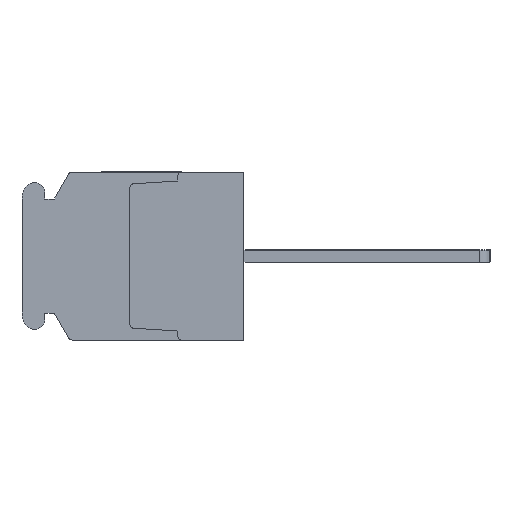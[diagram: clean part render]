
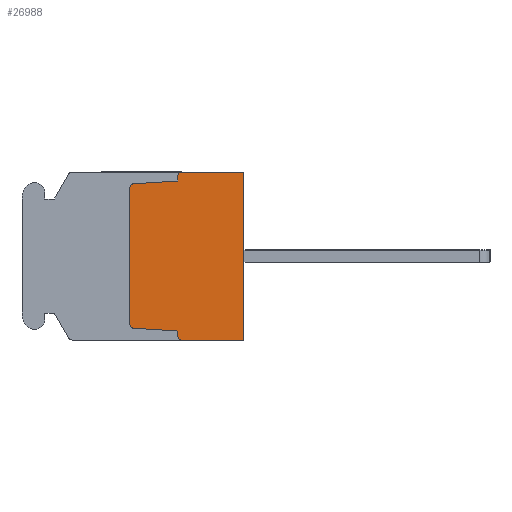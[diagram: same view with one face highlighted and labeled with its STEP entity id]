
A CAD part, left-side view. The second image highlights one B-rep face of the part: STEP entity #26988.
In plain terms, the highlighted planar face has unit normal (-1, 0, 0).
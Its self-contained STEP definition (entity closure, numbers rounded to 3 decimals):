
#2968=VECTOR('',#34209,1.);
#2969=VECTOR('',#34212,1.);
#2970=VECTOR('',#34213,1.);
#2971=VECTOR('',#34216,1.);
#2972=VECTOR('',#34217,1.);
#2973=VECTOR('',#34218,1.);
#2974=VECTOR('',#34221,1.);
#2975=VECTOR('',#34222,1.);
#5865=LINE('',#42365,#2968);
#5866=LINE('',#42369,#2969);
#5867=LINE('',#42371,#2970);
#5868=LINE('',#42375,#2971);
#5869=LINE('',#42377,#2972);
#5870=LINE('',#42379,#2973);
#5871=LINE('',#42383,#2974);
#5872=LINE('',#42385,#2975);
#7163=PLANE('',#28964);
#7884=CIRCLE('',#28965,0.3);
#7885=CIRCLE('',#28966,0.3);
#7886=CIRCLE('',#28967,0.3);
#7887=CIRCLE('',#28968,0.3);
#10159=VERTEX_POINT('',#42363);
#10160=VERTEX_POINT('',#42364);
#10161=VERTEX_POINT('',#42366);
#10162=VERTEX_POINT('',#42368);
#10163=VERTEX_POINT('',#42370);
#10164=VERTEX_POINT('',#42372);
#10165=VERTEX_POINT('',#42374);
#10166=VERTEX_POINT('',#42376);
#10167=VERTEX_POINT('',#42378);
#10168=VERTEX_POINT('',#42380);
#10169=VERTEX_POINT('',#42382);
#10170=VERTEX_POINT('',#42384);
#14042=EDGE_CURVE('',#10159,#10160,#7884,.T.);
#14043=EDGE_CURVE('',#10161,#10159,#5865,.T.);
#14044=EDGE_CURVE('',#10162,#10161,#7885,.T.);
#14045=EDGE_CURVE('',#10163,#10162,#5866,.T.);
#14046=EDGE_CURVE('',#10164,#10163,#5867,.T.);
#14047=EDGE_CURVE('',#10165,#10164,#7886,.T.);
#14048=EDGE_CURVE('',#10166,#10165,#5868,.T.);
#14049=EDGE_CURVE('',#10167,#10166,#5869,.T.);
#14050=EDGE_CURVE('',#10168,#10167,#5870,.T.);
#14051=EDGE_CURVE('',#10169,#10168,#7887,.T.);
#14052=EDGE_CURVE('',#10170,#10169,#5871,.T.);
#14053=EDGE_CURVE('',#10160,#10170,#5872,.T.);
#21221=ORIENTED_EDGE('',*,*,#14042,.F.);
#21222=ORIENTED_EDGE('',*,*,#14043,.F.);
#21223=ORIENTED_EDGE('',*,*,#14044,.F.);
#21224=ORIENTED_EDGE('',*,*,#14045,.F.);
#21225=ORIENTED_EDGE('',*,*,#14046,.F.);
#21226=ORIENTED_EDGE('',*,*,#14047,.F.);
#21227=ORIENTED_EDGE('',*,*,#14048,.F.);
#21228=ORIENTED_EDGE('',*,*,#14049,.F.);
#21229=ORIENTED_EDGE('',*,*,#14050,.F.);
#21230=ORIENTED_EDGE('',*,*,#14051,.F.);
#21231=ORIENTED_EDGE('',*,*,#14052,.F.);
#21232=ORIENTED_EDGE('',*,*,#14053,.F.);
#23923=EDGE_LOOP('',(#21221,#21222,#21223,#21224,#21225,#21226,#21227,#21228,
#21229,#21230,#21231,#21232));
#25505=FACE_BOUND('',#23923,.T.);
#26988=ADVANCED_FACE('',(#25505),#7163,.F.);
#28964=AXIS2_PLACEMENT_3D('',#42361,#34206,$);
#28965=AXIS2_PLACEMENT_3D('',#42362,#34207,#34208);
#28966=AXIS2_PLACEMENT_3D('',#42367,#34210,#34211);
#28967=AXIS2_PLACEMENT_3D('',#42373,#34214,#34215);
#28968=AXIS2_PLACEMENT_3D('',#42381,#34219,#34220);
#34206=DIRECTION('',(1.,0.,0.));
#34207=DIRECTION('',(1.,0.,0.));
#34208=DIRECTION('',(0.,0.,-0.3));
#34209=DIRECTION('',(0.,0.,1.));
#34210=DIRECTION('',(1.,0.,0.));
#34211=DIRECTION('',(0.,0.,-0.3));
#34212=DIRECTION('',(0.,0.998,0.062));
#34213=DIRECTION('',(0.,0.,1.));
#34214=DIRECTION('',(1.,0.,0.));
#34215=DIRECTION('',(0.,0.,-0.3));
#34216=DIRECTION('',(0.,1.,0.));
#34217=DIRECTION('',(0.,0.,-1.));
#34218=DIRECTION('',(0.,-1.,0.));
#34219=DIRECTION('',(1.,0.,0.));
#34220=DIRECTION('',(0.,0.,-0.3));
#34221=DIRECTION('',(0.,0.,1.));
#34222=DIRECTION('',(0.,-0.998,0.062));
#42361=CARTESIAN_POINT('',(0.,4.541,0.));
#42362=CARTESIAN_POINT('',(0.,9.2,5.718));
#42363=CARTESIAN_POINT('',(0.,9.5,5.718));
#42364=CARTESIAN_POINT('',(0.,9.219,6.018));
#42365=CARTESIAN_POINT('',(0.,9.5,-5.718));
#42366=CARTESIAN_POINT('',(0.,9.5,-5.718));
#42367=CARTESIAN_POINT('',(0.,9.2,-5.718));
#42368=CARTESIAN_POINT('',(0.,9.219,-6.018));
#42369=CARTESIAN_POINT('',(0.,5.5,-6.25));
#42370=CARTESIAN_POINT('',(0.,5.5,-6.25));
#42371=CARTESIAN_POINT('',(0.,5.5,-6.7));
#42372=CARTESIAN_POINT('',(0.,5.5,-6.7));
#42373=CARTESIAN_POINT('',(0.,5.2,-6.7));
#42374=CARTESIAN_POINT('',(0.,5.2,-7.));
#42375=CARTESIAN_POINT('',(0.,0.,-7.));
#42376=CARTESIAN_POINT('',(0.,0.,-7.));
#42377=CARTESIAN_POINT('',(0.,0.,7.));
#42378=CARTESIAN_POINT('',(0.,0.,7.));
#42379=CARTESIAN_POINT('',(0.,5.2,7.));
#42380=CARTESIAN_POINT('',(0.,5.2,7.));
#42381=CARTESIAN_POINT('',(0.,5.2,6.7));
#42382=CARTESIAN_POINT('',(0.,5.5,6.7));
#42383=CARTESIAN_POINT('',(0.,5.5,6.25));
#42384=CARTESIAN_POINT('',(0.,5.5,6.25));
#42385=CARTESIAN_POINT('',(0.,9.219,6.018));
